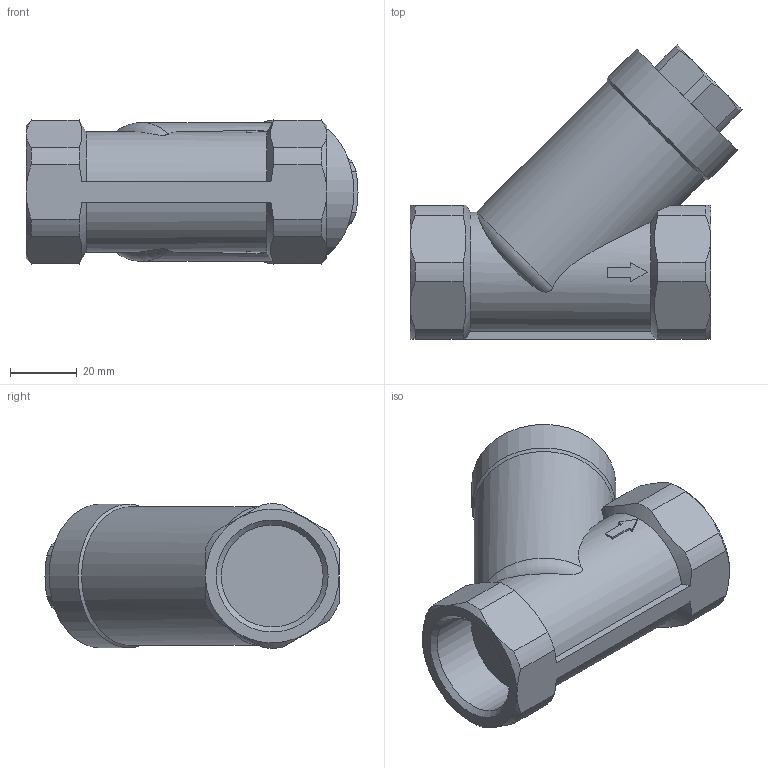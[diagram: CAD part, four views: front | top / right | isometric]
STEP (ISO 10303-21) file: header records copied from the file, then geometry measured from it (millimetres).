
FILE_DESCRIPTION (( 'STEP AP203' ), '1' );
FILE_NAME ('Y6.623025FNC.STEP', '2018-10-24T12:23:53', ( 'dell2' ), ( 'Microsoft' ), 'SwSTEP 2.0', 'SolidWorks 2014', '' );
FILE_SCHEMA (( 'CONFIG_CONTROL_DESIGN' ));
Length unit declared in the file: millimetre
Products named in the file (1): Y6.623025FNC
Bounding box: 99.34 x 88 x 43.16 mm (x, y, z)
Volume: 159141.8 mm3; surface area: 24639.9 mm2
Topology: 2 solids, 2 shells, 91 faces, 225 edges, 142 vertices
Faces by surface type: plane 41, cone 24, cylinder 24, torus 2
Full cylindrical faces by diameter (mm): 30.5 x2, 41.5 x1, 43 x1
Entity records: 3134 total; most frequent: CARTESIAN_POINT 1009, ORIENTED_EDGE 436, DIRECTION 408, EDGE_CURVE 218, AXIS2_PLACEMENT_3D 165, VERTEX_POINT 142, EDGE_LOOP 102, FACE_OUTER_BOUND 94
